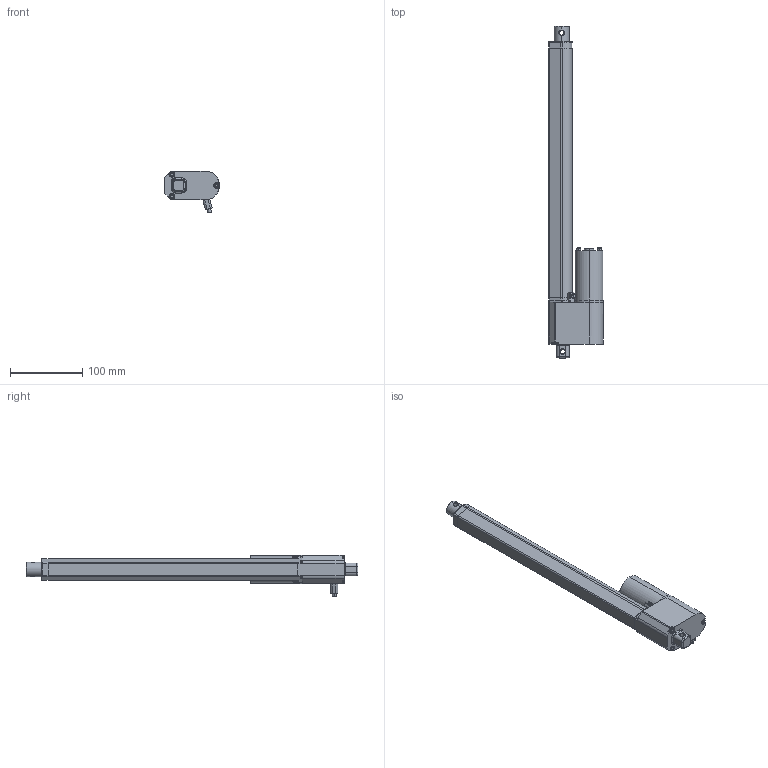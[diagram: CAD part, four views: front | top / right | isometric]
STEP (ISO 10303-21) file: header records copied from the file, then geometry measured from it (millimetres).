
FILE_DESCRIPTION (( 'STEP AP203' ), '1' );
FILE_NAME ('KTC-D24-300 _ 3D.STEP', '2018-08-23T15:39:51', ( '' ), ( '' ), 'SwSTEP 2.0', 'SolidWorks 2018', '' );
FILE_SCHEMA (( 'CONFIG_CONTROL_DESIGN' ));
Length unit declared in the file: millimetre
Products named in the file (3): KTC-D24_3D(polegada)3; KTC-D24_3D(polegada)4; KTC-D24-300 _ 3D
Assembly tree (2 placements, depth 2):
  KTC-D24-300 _ 3D
    KTC-D24_3D(polegada)3
    KTC-D24_3D(polegada)4
Bounding box: 75.69 x 458.29 x 57.66 mm (x, y, z)
Volume: 537198.1 mm3; surface area: 75739.2 mm2
Topology: 5 solids, 5 shells, 236 faces, 587 edges, 374 vertices
Faces by surface type: cylinder 112, plane 67, torus 36, cone 17, bspline 4
Entity records: 8819 total; most frequent: CARTESIAN_POINT 2711, DIRECTION 1327, ORIENTED_EDGE 1174, EDGE_CURVE 587, AXIS2_PLACEMENT_3D 539, VERTEX_POINT 374, CIRCLE 302, EDGE_LOOP 253
